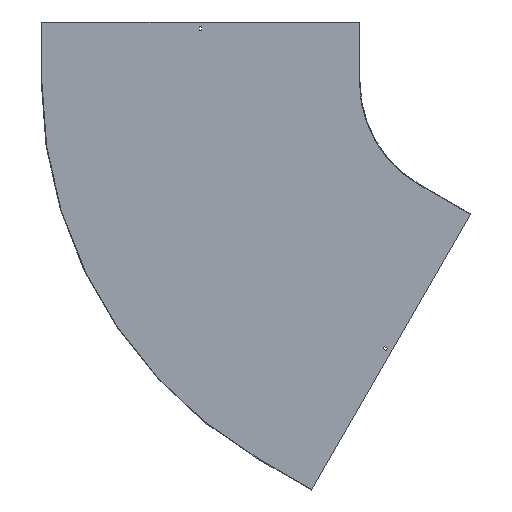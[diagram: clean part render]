
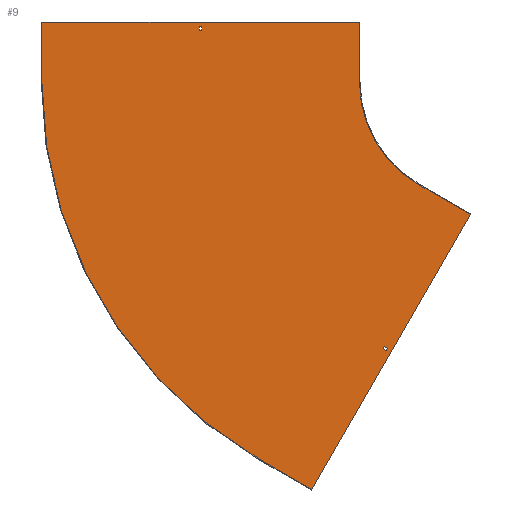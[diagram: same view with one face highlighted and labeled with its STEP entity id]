
A CAD part, front view. The second image highlights one B-rep face of the part: STEP entity #9.
In plain terms, the highlighted planar face has unit normal (0, -1, 0).
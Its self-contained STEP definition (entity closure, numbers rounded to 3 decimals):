
#6 = CARTESIAN_POINT ( 'NONE',  ( -703.25, -1.5, 129. ) ) ;
#8 = VERTEX_POINT ( 'NONE', #759 ) ;
#9 = ADVANCED_FACE ( 'NONE', ( #552, #679, #154 ), #820, .T. ) ;
#19 = CARTESIAN_POINT ( 'NONE',  ( -1100., -1.5, 0. ) ) ;
#31 = LINE ( 'NONE', #19, #459 ) ;
#48 = EDGE_LOOP ( 'NONE', ( #697, #595, #653, #604 ) ) ;
#68 = LINE ( 'NONE', #411, #718 ) ;
#75 = DIRECTION ( 'NONE',  ( 0., 0., -1. ) ) ;
#80 = CARTESIAN_POINT ( 'NONE',  ( 0., -1.5, 138. ) ) ;
#86 = CARTESIAN_POINT ( 'NONE',  ( -420.096, -1.5, -1027.628 ) ) ;
#87 = EDGE_LOOP ( 'NONE', ( #664, #120, #850, #440, #629, #511, #784, #270 ) ) ;
#92 = EDGE_CURVE ( 'NONE', #824, #579, #508, .T. ) ;
#93 = DIRECTION ( 'NONE',  ( -0.866, 0., 0.5 ) ) ;
#101 = VECTOR ( 'NONE', #631, 1000. ) ;
#114 = CARTESIAN_POINT ( 'NONE',  ( -228.863, -1.5, -672.403 ) ) ;
#117 = AXIS2_PLACEMENT_3D ( 'NONE', #549, #691, #75 ) ;
#120 = ORIENTED_EDGE ( 'NONE', *, *, #534, .F. ) ;
#130 = VERTEX_POINT ( 'NONE', #432 ) ;
#140 = DIRECTION ( 'NONE',  ( 0.866, 0., -0.5 ) ) ;
#144 = EDGE_CURVE ( 'NONE', #849, #176, #164, .T. ) ;
#152 = VERTEX_POINT ( 'NONE', #655 ) ;
#154 = FACE_BOUND ( 'NONE', #48, .T. ) ;
#158 = LINE ( 'NONE', #560, #712 ) ;
#159 = CARTESIAN_POINT ( 'NONE',  ( -1100., -1.5, 150. ) ) ;
#164 = LINE ( 'NONE', #191, #813 ) ;
#165 = DIRECTION ( 'NONE',  ( -0.5, 0., -0.866 ) ) ;
#169 = EDGE_CURVE ( 'NONE', #152, #8, #420, .T. ) ;
#172 = LINE ( 'NONE', #418, #393 ) ;
#176 = VERTEX_POINT ( 'NONE', #441 ) ;
#179 = VECTOR ( 'NONE', #202, 1000. ) ;
#180 = EDGE_CURVE ( 'NONE', #458, #824, #374, .T. ) ;
#190 = EDGE_CURVE ( 'NONE', #579, #382, #750, .T. ) ;
#191 = CARTESIAN_POINT ( 'NONE',  ( -348.375, -1.5, -603.403 ) ) ;
#202 = DIRECTION ( 'NONE',  ( -0.5, 0., -0.866 ) ) ;
#208 = EDGE_CURVE ( 'NONE', #382, #458, #297, .T. ) ;
#211 = EDGE_CURVE ( 'NONE', #408, #375, #668, .T. ) ;
#212 = DIRECTION ( 'NONE',  ( 0., 0., -1. ) ) ;
#220 = CARTESIAN_POINT ( 'NONE',  ( -150., -1.5, -259.808 ) ) ;
#243 = VECTOR ( 'NONE', #474, 1000. ) ;
#256 = CARTESIAN_POINT ( 'NONE',  ( 0., -1.5, 129. ) ) ;
#259 = EDGE_CURVE ( 'NONE', #781, #856, #738, .T. ) ;
#261 = DIRECTION ( 'NONE',  ( 0., 0., -1. ) ) ;
#270 = ORIENTED_EDGE ( 'NONE', *, *, #259, .F. ) ;
#272 = CARTESIAN_POINT ( 'NONE',  ( -696.75, -1.5, 129. ) ) ;
#275 = EDGE_CURVE ( 'NONE', #775, #408, #172, .T. ) ;
#289 = DIRECTION ( 'NONE',  ( 0., 0., 1. ) ) ;
#297 = LINE ( 'NONE', #544, #773 ) ;
#301 = EDGE_CURVE ( 'NONE', #375, #152, #771, .T. ) ;
#314 = VERTEX_POINT ( 'NONE', #159 ) ;
#315 = AXIS2_PLACEMENT_3D ( 'NONE', #558, #399, #332 ) ;
#323 = CARTESIAN_POINT ( 'NONE',  ( -696.75, -1.5, 138. ) ) ;
#332 = DIRECTION ( 'NONE',  ( 0., 0., -1. ) ) ;
#336 = EDGE_CURVE ( 'NONE', #602, #849, #767, .T. ) ;
#351 = VECTOR ( 'NONE', #93, 1000. ) ;
#374 = LINE ( 'NONE', #256, #576 ) ;
#375 = VERTEX_POINT ( 'NONE', #763 ) ;
#378 = AXIS2_PLACEMENT_3D ( 'NONE', #862, #659, #261 ) ;
#382 = VERTEX_POINT ( 'NONE', #323 ) ;
#393 = VECTOR ( 'NONE', #565, 1000. ) ;
#399 = DIRECTION ( 'NONE',  ( 0., -1., 0. ) ) ;
#408 = VERTEX_POINT ( 'NONE', #531 ) ;
#411 = CARTESIAN_POINT ( 'NONE',  ( -351.625, -1.5, -609.032 ) ) ;
#418 = CARTESIAN_POINT ( 'NONE',  ( -150., -1.5, -259.808 ) ) ;
#420 = CIRCLE ( 'NONE', #378, 1100. ) ;
#432 = CARTESIAN_POINT ( 'NONE',  ( -239.908, -1.5, -673.532 ) ) ;
#440 = ORIENTED_EDGE ( 'NONE', *, *, #301, .F. ) ;
#441 = CARTESIAN_POINT ( 'NONE',  ( -236.658, -1.5, -667.903 ) ) ;
#449 = EDGE_CURVE ( 'NONE', #130, #602, #68, .T. ) ;
#458 = VERTEX_POINT ( 'NONE', #272 ) ;
#459 = VECTOR ( 'NONE', #289, 1000. ) ;
#474 = DIRECTION ( 'NONE',  ( 0., 0., -1. ) ) ;
#480 = CARTESIAN_POINT ( 'NONE',  ( -19.346, -1.5, -333.509 ) ) ;
#501 = EDGE_CURVE ( 'NONE', #176, #130, #546, .T. ) ;
#508 = LINE ( 'NONE', #710, #688 ) ;
#511 = ORIENTED_EDGE ( 'NONE', *, *, #275, .F. ) ;
#512 = ORIENTED_EDGE ( 'NONE', *, *, #336, .F. ) ;
#514 = CIRCLE ( 'NONE', #117, 300. ) ;
#520 = DIRECTION ( 'NONE',  ( -1., 0., 0. ) ) ;
#523 = VECTOR ( 'NONE', #837, 1000. ) ;
#531 = CARTESIAN_POINT ( 'NONE',  ( -20.096, -1.5, -334.808 ) ) ;
#534 = EDGE_CURVE ( 'NONE', #8, #314, #31, .T. ) ;
#544 = CARTESIAN_POINT ( 'NONE',  ( -696.75, -1.5, 0. ) ) ;
#546 = LINE ( 'NONE', #817, #648 ) ;
#548 = CARTESIAN_POINT ( 'NONE',  ( -232.113, -1.5, -678.032 ) ) ;
#549 = CARTESIAN_POINT ( 'NONE',  ( 0., -1.5, 0. ) ) ;
#552 = FACE_BOUND ( 'NONE', #644, .T. ) ;
#558 = CARTESIAN_POINT ( 'NONE',  ( 0., -1.5, 0. ) ) ;
#560 = CARTESIAN_POINT ( 'NONE',  ( -1101.5, -1.5, 150. ) ) ;
#565 = DIRECTION ( 'NONE',  ( 0.866, 0., -0.5 ) ) ;
#574 = CARTESIAN_POINT ( 'NONE',  ( 119.512, -1.5, -69. ) ) ;
#576 = VECTOR ( 'NONE', #520, 1000. ) ;
#579 = VERTEX_POINT ( 'NONE', #822 ) ;
#587 = CARTESIAN_POINT ( 'NONE',  ( -300., -1.5, 0. ) ) ;
#593 = DIRECTION ( 'NONE',  ( -0.866, 0., 0.5 ) ) ;
#595 = ORIENTED_EDGE ( 'NONE', *, *, #208, .T. ) ;
#602 = VERTEX_POINT ( 'NONE', #548 ) ;
#604 = ORIENTED_EDGE ( 'NONE', *, *, #92, .T. ) ;
#612 = EDGE_CURVE ( 'NONE', #314, #781, #158, .T. ) ;
#629 = ORIENTED_EDGE ( 'NONE', *, *, #211, .F. ) ;
#631 = DIRECTION ( 'NONE',  ( 1., 0., 0. ) ) ;
#644 = EDGE_LOOP ( 'NONE', ( #801, #512, #800, #757 ) ) ;
#648 = VECTOR ( 'NONE', #165, 1000. ) ;
#653 = ORIENTED_EDGE ( 'NONE', *, *, #180, .T. ) ;
#655 = CARTESIAN_POINT ( 'NONE',  ( -550., -1.5, -952.628 ) ) ;
#659 = DIRECTION ( 'NONE',  ( 0., 1., 0. ) ) ;
#664 = ORIENTED_EDGE ( 'NONE', *, *, #612, .F. ) ;
#665 = CARTESIAN_POINT ( 'NONE',  ( -300., -1.5, 150. ) ) ;
#668 = LINE ( 'NONE', #480, #179 ) ;
#679 = FACE_OUTER_BOUND ( 'NONE', #87, .T. ) ;
#688 = VECTOR ( 'NONE', #772, 1000. ) ;
#691 = DIRECTION ( 'NONE',  ( 0., -1., 0. ) ) ;
#692 = CARTESIAN_POINT ( 'NONE',  ( -300., -1.5, 150. ) ) ;
#697 = ORIENTED_EDGE ( 'NONE', *, *, #190, .T. ) ;
#710 = CARTESIAN_POINT ( 'NONE',  ( -703.25, -1.5, 0. ) ) ;
#712 = VECTOR ( 'NONE', #766, 1000. ) ;
#718 = VECTOR ( 'NONE', #140, 1000. ) ;
#738 = LINE ( 'NONE', #692, #243 ) ;
#750 = LINE ( 'NONE', #80, #101 ) ;
#757 = ORIENTED_EDGE ( 'NONE', *, *, #501, .F. ) ;
#759 = CARTESIAN_POINT ( 'NONE',  ( -1100., -1.5, 0. ) ) ;
#763 = CARTESIAN_POINT ( 'NONE',  ( -420.096, -1.5, -1027.628 ) ) ;
#766 = DIRECTION ( 'NONE',  ( 1., 0., 0. ) ) ;
#767 = LINE ( 'NONE', #574, #523 ) ;
#771 = LINE ( 'NONE', #86, #351 ) ;
#772 = DIRECTION ( 'NONE',  ( 0., 0., 1. ) ) ;
#773 = VECTOR ( 'NONE', #212, 1000. ) ;
#775 = VERTEX_POINT ( 'NONE', #220 ) ;
#781 = VERTEX_POINT ( 'NONE', #665 ) ;
#784 = ORIENTED_EDGE ( 'NONE', *, *, #819, .F. ) ;
#800 = ORIENTED_EDGE ( 'NONE', *, *, #449, .F. ) ;
#801 = ORIENTED_EDGE ( 'NONE', *, *, #144, .F. ) ;
#813 = VECTOR ( 'NONE', #593, 1000. ) ;
#817 = CARTESIAN_POINT ( 'NONE',  ( 111.717, -1.5, -64.5 ) ) ;
#819 = EDGE_CURVE ( 'NONE', #856, #775, #514, .T. ) ;
#820 = PLANE ( 'NONE',  #315 ) ;
#822 = CARTESIAN_POINT ( 'NONE',  ( -703.25, -1.5, 138. ) ) ;
#824 = VERTEX_POINT ( 'NONE', #6 ) ;
#837 = DIRECTION ( 'NONE',  ( 0.5, 0., 0.866 ) ) ;
#849 = VERTEX_POINT ( 'NONE', #114 ) ;
#850 = ORIENTED_EDGE ( 'NONE', *, *, #169, .F. ) ;
#856 = VERTEX_POINT ( 'NONE', #587 ) ;
#862 = CARTESIAN_POINT ( 'NONE',  ( 0., -1.5, 0. ) ) ;
